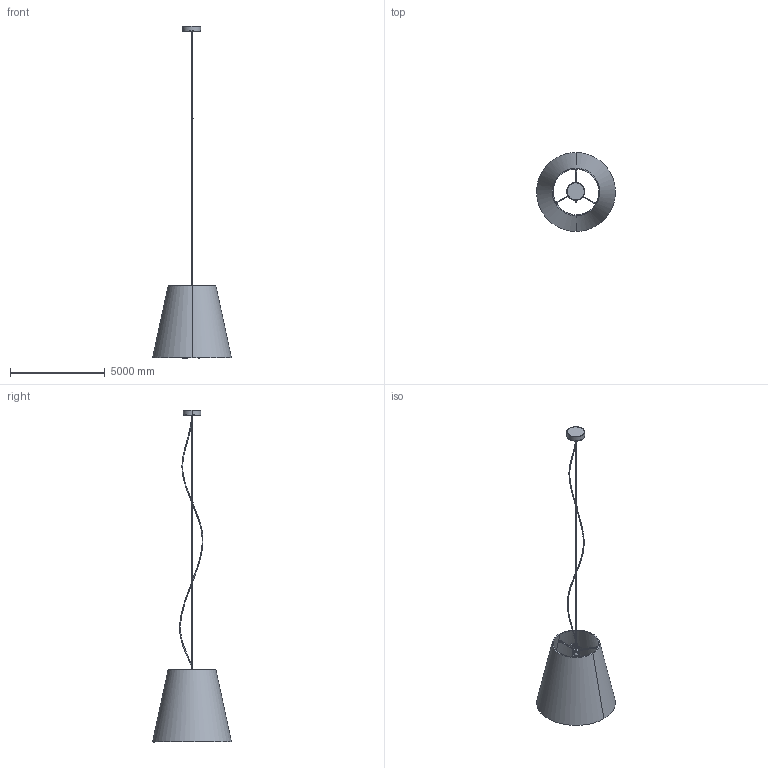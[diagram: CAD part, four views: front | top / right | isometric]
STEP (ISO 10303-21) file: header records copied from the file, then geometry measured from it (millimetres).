
FILE_DESCRIPTION(/* description */ (''),/* implementation_level */ '2;1');
FILE_NAME(/* name */ '1108',/* time_stamp */ '2022-01-18T14:52:37+01:00',/* author */ (''),/* organization */ (''),/* preprocessor_version */ 'ST-DEVELOPER v16.5',/* originating_system */ '',/* authorisation */ '');
FILE_SCHEMA (('CONFIG_CONTROL_DESIGN'));
Length unit declared in the file: centimetre
Products named in the file (1): Document
Bounding box: 4145.26 x 4150 x 17481.91 mm (x, y, z)
Volume: 2137238588.7 mm3; surface area: 91159272.2 mm2
Topology: 18 solids, 18 shells, 208 faces, 480 edges, 307 vertices
Faces by surface type: plane 99, cylinder 81, bspline 28
Entity records: 7225 total; most frequent: CARTESIAN_POINT 3900, ORIENTED_EDGE 936, EDGE_CURVE 468, VERTEX_POINT 307, EDGE_LOOP 251, B_SPLINE_CURVE_WITH_KNOTS 236, ADVANCED_FACE 208, FACE_OUTER_BOUND 208
